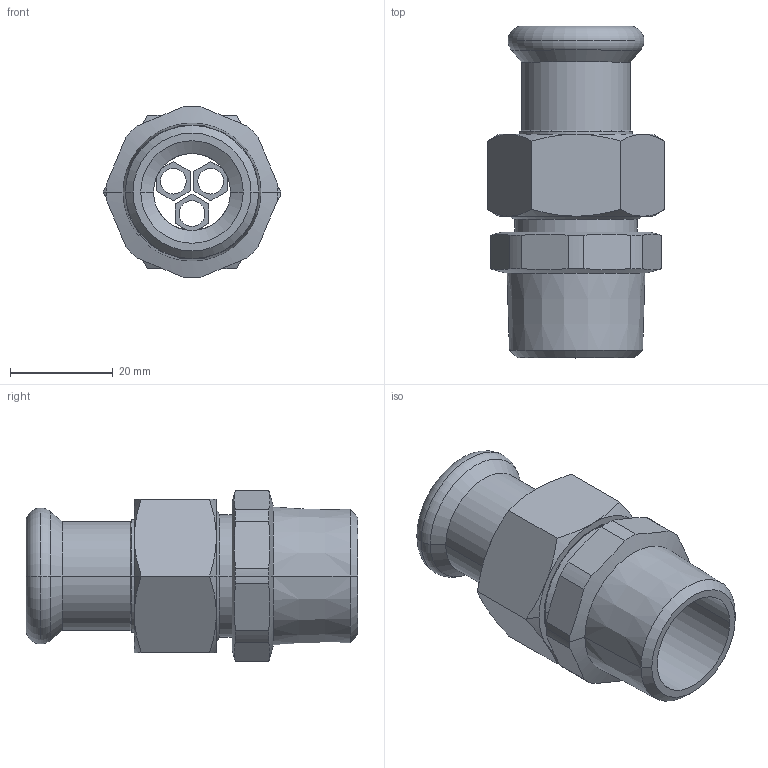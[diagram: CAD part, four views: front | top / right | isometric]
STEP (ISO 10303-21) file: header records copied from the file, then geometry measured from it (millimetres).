
FILE_DESCRIPTION(('OneSpaceDesigner STEP Export'),'2;1');
FILE_NAME('R2735 18xRp3-4.stp','2010-06-10T13:46:17',(''),(''),'OneSpace Designer STEP processor for AP214 (Solid Model)','OneSpace Modeling 15.00A 14-Mar-2007 (C) CoCreate Software GmbH','');
FILE_SCHEMA(('AUTOMOTIVE_DESIGN { 1 0 10303 214 1 1 1 1 }'));
Length unit declared in the file: millimetre
Products named in the file (2): R2735_18xRp3-4
Assembly tree (1 placements, depth 2):
  R2735_18xRp3-4
    R2735_18xRp3-4
Bounding box: 34.64 x 64.7 x 33.48 mm (x, y, z)
Volume: 20384.4 mm3; surface area: 12866 mm2
Topology: 1 solids, 1 shells, 152 faces, 364 edges, 220 vertices
Faces by surface type: plane 49, cone 49, cylinder 46, torus 8
Entity records: 5449 total; most frequent: CARTESIAN_POINT 2346, ORIENTED_EDGE 728, DIRECTION 504, EDGE_CURVE 364, VERTEX_POINT 220, AXIS2_PLACEMENT_3D 168, VECTOR 168, LINE 168
